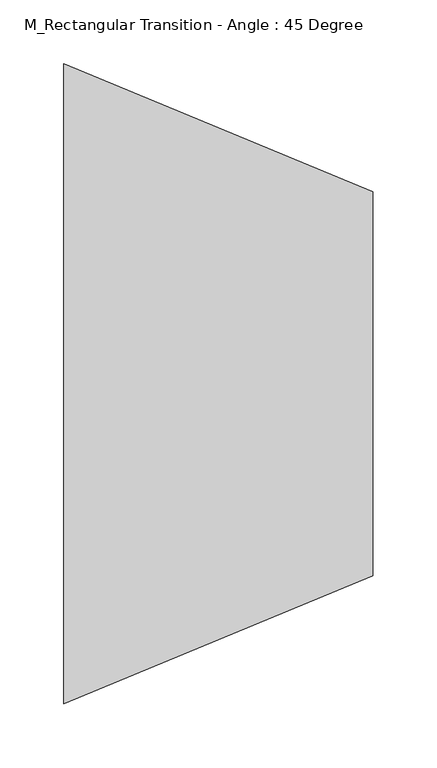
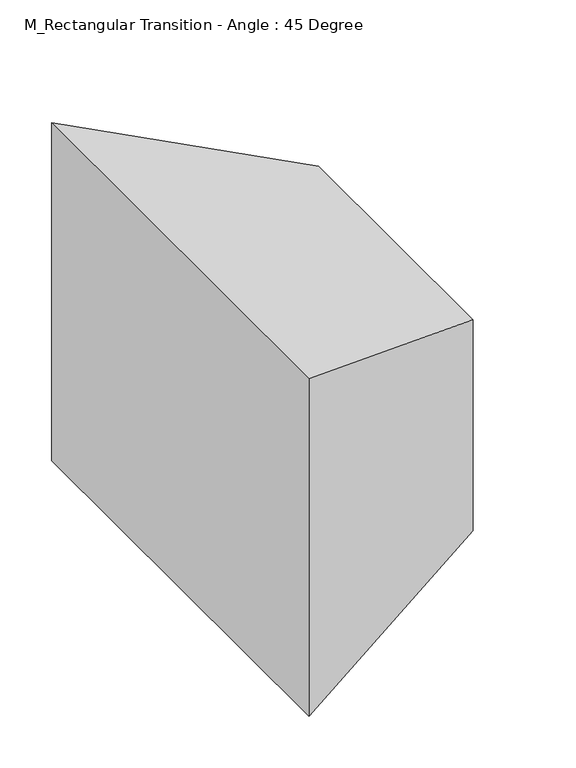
"""IFC4 building model written with IfcOpenShell, lengths in millimetres: duct fitting geometry, M_Rectangular Transition - Angle : 45 Degree."""

from ifc_helpers import new_model, si_unit, origin, place, context, project, spatial, faceted_brep, source, transform, mapped, element, save


def m_rectangular_transition_angle_45_degree_d3760904(model_context):
    return source(origin(), model_context, "Body", "Brep", [
        faceted_brep([(241.4213562, -150.0, 125.0), (241.4213562, -150.0, -125.0), (241.4213562, 150.0, -125.0), (241.4213562, 150.0, 125.0), (0.0, -250.0, 200.0), (0.0, 250.0, 200.0), (0.0, 250.0, -200.0), (0.0, -250.0, -200.0)], [[[0, 1, 2, 3]], [[4, 5, 6, 7]], [[4, 7, 1, 0]], [[7, 6, 2, 1]], [[6, 5, 3, 2]], [[5, 4, 0, 3]]]),
        faceted_brep([(241.4213562, -150.0, 125.0), (241.4213562, -150.0, -125.0), (241.4213562, 150.0, -125.0), (241.4213562, 150.0, 125.0), (0.0, -250.0, 200.0), (0.0, 250.0, 200.0), (0.0, 250.0, -200.0), (0.0, -250.0, -200.0)], [[[0, 1, 2, 3]], [[4, 5, 6, 7]], [[4, 7, 1, 0]], [[7, 6, 2, 1]], [[6, 5, 3, 2]], [[5, 4, 0, 3]]]),
        faceted_brep([(241.4213562, -150.0, 125.0), (241.4213562, -150.0, -125.0), (241.4213562, 150.0, -125.0), (241.4213562, 150.0, 125.0), (0.0, -250.0, 200.0), (0.0, 250.0, 200.0), (0.0, 250.0, -200.0), (0.0, -250.0, -200.0)], [[[0, 1, 2, 3]], [[4, 5, 6, 7]], [[4, 7, 1, 0]], [[7, 6, 2, 1]], [[6, 5, 3, 2]], [[5, 4, 0, 3]]]),
    ])


if __name__ == "__main__":
    model = new_model("IFC4")
    model_context = context("Model", 3, world=origin())
    ifc_project = project(units=[si_unit("LENGTHUNIT", "METRE", prefix="MILLI")], contexts=[model_context])
    site = spatial("IfcSite", under=ifc_project)
    building = spatial("IfcBuilding", under=site)
    placement = place(None, origin())
    m_rectangular_transition_angle_45_degree_shape = m_rectangular_transition_angle_45_degree_d3760904(model_context)
    element("IfcDuctFitting", 1, ObjectType="M_Rectangular Transition - Angle : 45 Degree", at=placement, inside=building, context=model_context, shape_type="MappedRepresentation", body=[
        mapped(m_rectangular_transition_angle_45_degree_shape, transform((0.0, 0.0, 0.0), x_axis=(1.0, 0.0, 0.0), y_axis=(0.0, 1.0, 0.0), z_axis=(0.0, 0.0, 1.0))),
    ])
    save(model, "model.ifc")
